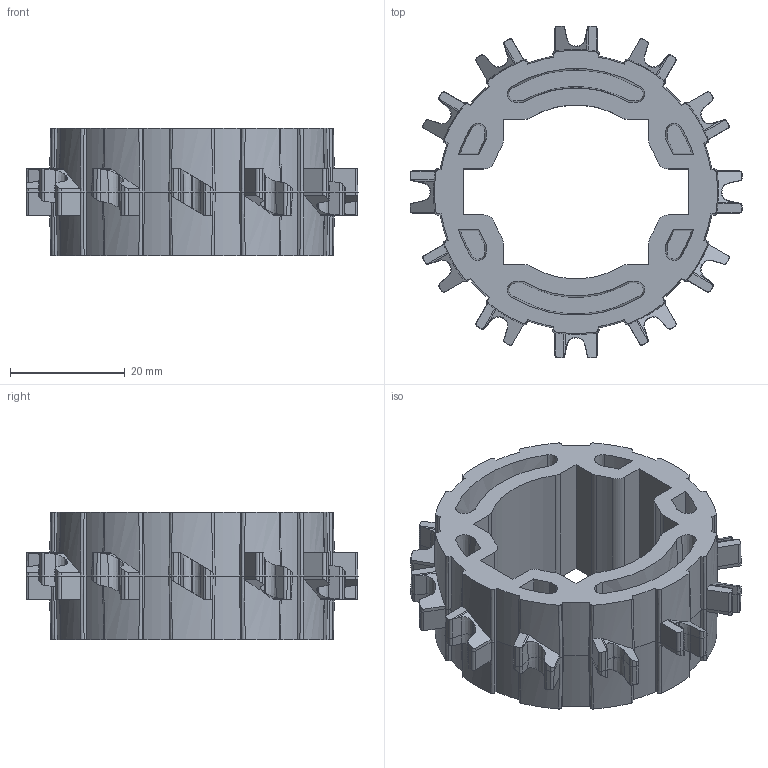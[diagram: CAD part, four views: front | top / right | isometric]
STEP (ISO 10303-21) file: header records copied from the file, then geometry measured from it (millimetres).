
FILE_DESCRIPTION(/* description */ (''),/* implementation_level */ '2;1');
FILE_NAME(/* name */ 'HS-1100-12T.stp',/* time_stamp */ '2021-01-07T16:50:33+08:00',/* author */ (''),/* organization */ (''),/* preprocessor_version */ 'ST-DEVELOPER v15',/* originating_system */ 'SIEMENS PLM Software NX 8.5',/* authorisation */ '');
FILE_SCHEMA (('AP203_CONFIGURATION_CONTROLLED_3D_DESIGN_OF_MECHANICAL_PARTS_AND_ASSEMBLIES_MIM_LF { 1 0 10303 403 2 1 2}'));
Length unit declared in the file: millimetre
Products named in the file (1): Admi04F4B318jfh2
Bounding box: 57.81 x 57.81 x 22.14 mm (x, y, z)
Volume: 20256.7 mm3; surface area: 12900.8 mm2
Topology: 1 solids, 1 shells, 638 faces, 1656 edges, 1032 vertices
Faces by surface type: plane 316, cone 232, bspline 48, cylinder 42
Entity records: 26717 total; most frequent: CARTESIAN_POINT 7191, ORIENTED_EDGE 3312, DIRECTION 2910, EDGE_CURVE 1656, AXIS2_PLACEMENT_3D 1055, VERTEX_POINT 1032, LINE 800, VECTOR 800
